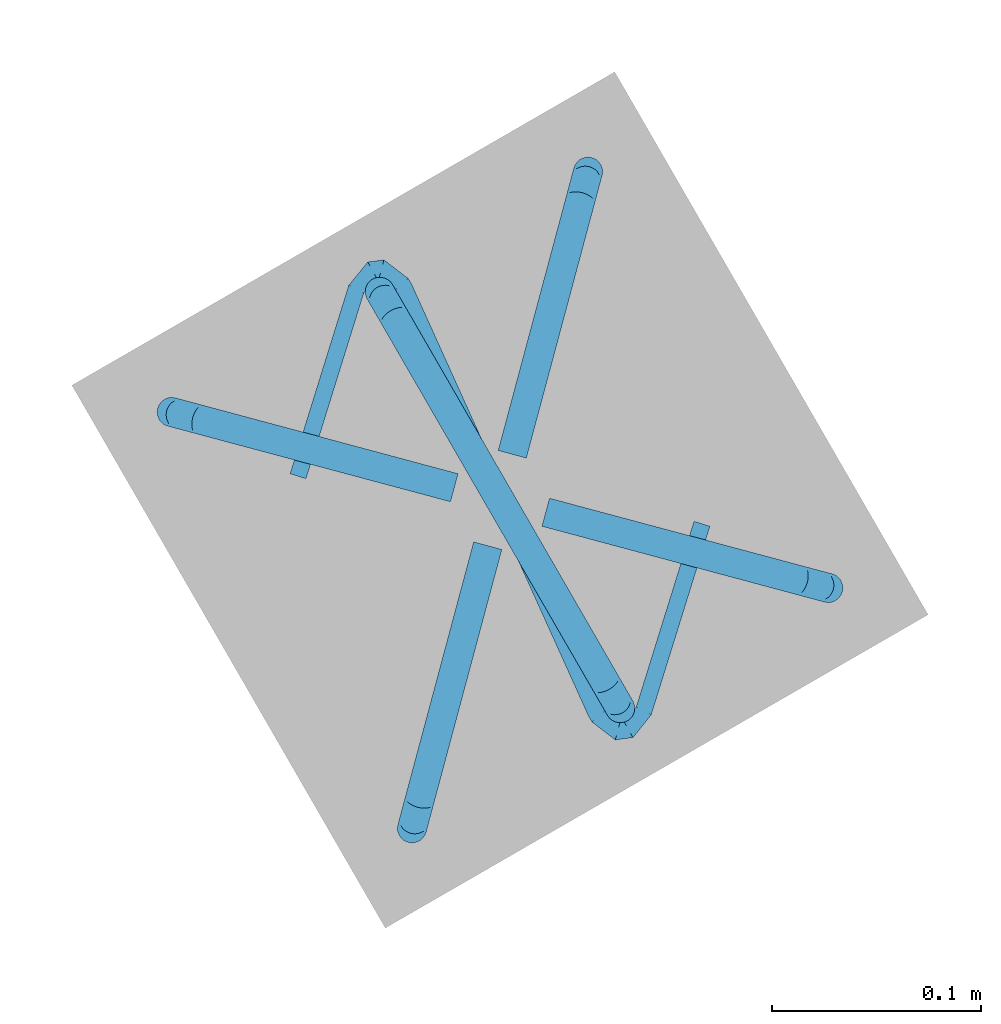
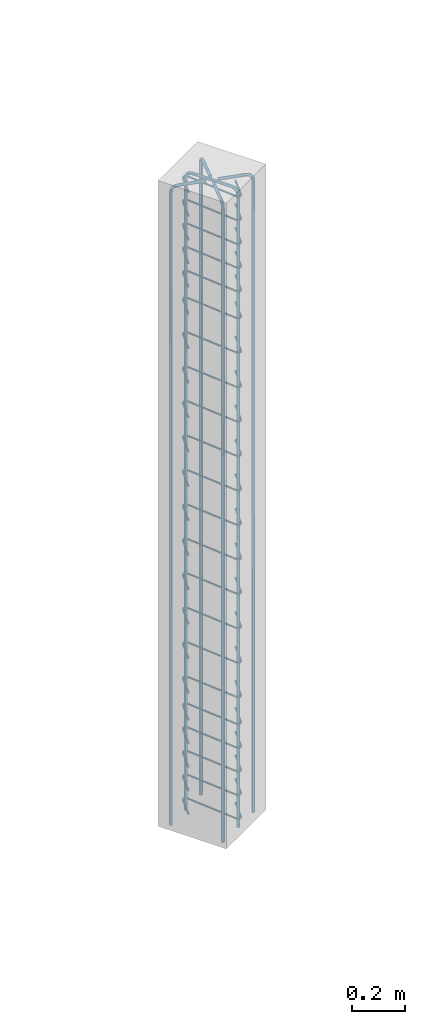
# One storey, part 3 of 11: 2 reinforcing bars.
"""IFC2X3 building model written with IfcOpenShell, lengths in metres."""

from ifc_helpers import new_model, entity, si_unit, direction, frame, origin, place, context, subcontext, project, spatial, shape, source, transform, mapped, element, save


model = new_model("IFC2X3")

# Units and contexts
model_context = context("Model", 3, precision=0.0, world=origin(), true_north=direction((0.0, 1.0)))
plan_context = context("Plan", 3, precision=0.0, world=origin(), true_north=direction((0.0, 1.0)))
body_context = subcontext(model_context, "Body", "Model", "MODEL_VIEW", scale=1.0)
ifc_project = project(units=[si_unit("LENGTHUNIT", "METRE"), si_unit("AREAUNIT", "SQUARE_METRE"), si_unit("VOLUMEUNIT", "CUBIC_METRE"), si_unit("PLANEANGLEUNIT", "RADIAN"), si_unit("THERMODYNAMICTEMPERATUREUNIT", "DEGREE_CELSIUS"), si_unit("FORCEUNIT", "NEWTON"), si_unit("MASSUNIT", "GRAM", prefix="KILO")], contexts=[model_context, plan_context])

# Site, building, storey
placement = place(None, origin())
site = spatial("IfcSite", under=ifc_project, at=placement, Name="Default Site", CompositionType="ELEMENT")
building = spatial("IfcBuilding", under=site, at=placement, Name="Default Building", CompositionType="ELEMENT")
storey_placement = place(placement, frame((0.0, 0.0, 3.0), z_axis=(1.0, 0.0, 0.0), x_axis=(0.0, 0.0, 1.0)))
storey = spatial("IfcBuildingStorey", under=building, at=storey_placement, Name="Piano 1", CompositionType="ELEMENT", Elevation=3.0)

# Reinforcing bars
shared_shape_1 = source(origin(), body_context, None, "AdvancedSweptSolid", [
    entity("IfcSweptDiskSolid", entity("IfcCompositeCurve", [entity("IfcCompositeCurveSegment", "CONTINUOUS", True, entity("IfcPolyline", [entity("IfcCartesianPoint", [0.0, 0.0, 0.0]), entity("IfcCartesianPoint", [-0.027863, -0.089508, 0.0]), entity("IfcCartesianPoint", [-0.035139, -0.098609, 0.0]), entity("IfcCartesianPoint", [-0.040373, -0.099298, 0.0]), entity("IfcCartesianPoint", [-0.049544, -0.092261, 0.0]), entity("IfcCartesianPoint", [-0.050972, -0.089787, 0.0]), entity("IfcCartesianPoint", [-0.142363, 0.112507, 0.0]), entity("IfcCartesianPoint", [-0.143606, 0.114659, 0.0]), entity("IfcCartesianPoint", [-0.153321, 0.122114, 0.0]), entity("IfcCartesianPoint", [-0.157874, 0.121515, 0.0]), entity("IfcCartesianPoint", [-0.165473, 0.112228, 0.0]), entity("IfcCartesianPoint", [-0.193336, 0.02272, 0.0])]))], False), 0.004, 0.0, 0.0),
])
shared_shape_2 = source(origin(), body_context, None, "AdvancedSweptSolid", [
    entity("IfcSweptDiskSolid", entity("IfcCompositeCurve", [entity("IfcCompositeCurveSegment", "CONTINUOUS", True, entity("IfcPolyline", [entity("IfcCartesianPoint", [0.0, 0.0, 0.0]), entity("IfcCartesianPoint", [-0.027863, -0.089508, 0.0]), entity("IfcCartesianPoint", [-0.035139, -0.098609, 0.0]), entity("IfcCartesianPoint", [-0.040373, -0.099298, 0.0]), entity("IfcCartesianPoint", [-0.049544, -0.092261, 0.0]), entity("IfcCartesianPoint", [-0.050972, -0.089787, 0.0]), entity("IfcCartesianPoint", [-0.142363, 0.112507, 0.0]), entity("IfcCartesianPoint", [-0.143606, 0.114659, 0.0]), entity("IfcCartesianPoint", [-0.153321, 0.122114, 0.0]), entity("IfcCartesianPoint", [-0.157874, 0.121515, 0.0]), entity("IfcCartesianPoint", [-0.165473, 0.112228, 0.0]), entity("IfcCartesianPoint", [-0.193336, 0.02272, 0.0])]))], False), 0.004, 0.0, 0.0),
])
shared_shape_3 = source(origin(), body_context, None, "AdvancedSweptSolid", [
    entity("IfcSweptDiskSolid", entity("IfcCompositeCurve", [entity("IfcCompositeCurveSegment", "CONTINUOUS", True, entity("IfcPolyline", [entity("IfcCartesianPoint", [0.0, 0.0, 0.0]), entity("IfcCartesianPoint", [-0.027863, -0.089508, 0.0]), entity("IfcCartesianPoint", [-0.035139, -0.098609, 0.0]), entity("IfcCartesianPoint", [-0.040373, -0.099298, 0.0]), entity("IfcCartesianPoint", [-0.049544, -0.092261, 0.0]), entity("IfcCartesianPoint", [-0.050972, -0.089787, 0.0]), entity("IfcCartesianPoint", [-0.142363, 0.112507, 0.0]), entity("IfcCartesianPoint", [-0.143606, 0.114659, 0.0]), entity("IfcCartesianPoint", [-0.153321, 0.122114, 0.0]), entity("IfcCartesianPoint", [-0.157874, 0.121515, 0.0]), entity("IfcCartesianPoint", [-0.165473, 0.112228, 0.0]), entity("IfcCartesianPoint", [-0.193336, 0.02272, 0.0])]))], False), 0.004, 0.0, 0.0),
])
shared_shape_4 = source(origin(), body_context, None, "AdvancedSweptSolid", [
    entity("IfcSweptDiskSolid", entity("IfcCompositeCurve", [entity("IfcCompositeCurveSegment", "CONTINUOUS", True, entity("IfcPolyline", [entity("IfcCartesianPoint", [0.0, 0.0, 0.0]), entity("IfcCartesianPoint", [-0.027863, -0.089508, 0.0]), entity("IfcCartesianPoint", [-0.035139, -0.098609, 0.0]), entity("IfcCartesianPoint", [-0.040373, -0.099298, 0.0]), entity("IfcCartesianPoint", [-0.049544, -0.092261, 0.0]), entity("IfcCartesianPoint", [-0.050972, -0.089787, 0.0]), entity("IfcCartesianPoint", [-0.142363, 0.112507, 0.0]), entity("IfcCartesianPoint", [-0.143606, 0.114659, 0.0]), entity("IfcCartesianPoint", [-0.153321, 0.122114, 0.0]), entity("IfcCartesianPoint", [-0.157874, 0.121515, 0.0]), entity("IfcCartesianPoint", [-0.165473, 0.112228, 0.0]), entity("IfcCartesianPoint", [-0.193336, 0.02272, 0.0])]))], False), 0.004, 0.0, 0.0),
])
shared_shape_5 = source(origin(), body_context, None, "AdvancedSweptSolid", [
    entity("IfcSweptDiskSolid", entity("IfcCompositeCurve", [entity("IfcCompositeCurveSegment", "CONTINUOUS", True, entity("IfcPolyline", [entity("IfcCartesianPoint", [0.0, 0.0, 0.0]), entity("IfcCartesianPoint", [-0.027863, -0.089508, 0.0]), entity("IfcCartesianPoint", [-0.035139, -0.098609, 0.0]), entity("IfcCartesianPoint", [-0.040373, -0.099298, 0.0]), entity("IfcCartesianPoint", [-0.049544, -0.092261, 0.0]), entity("IfcCartesianPoint", [-0.050972, -0.089787, 0.0]), entity("IfcCartesianPoint", [-0.142363, 0.112507, 0.0]), entity("IfcCartesianPoint", [-0.143606, 0.114659, 0.0]), entity("IfcCartesianPoint", [-0.153321, 0.122114, 0.0]), entity("IfcCartesianPoint", [-0.157874, 0.121515, 0.0]), entity("IfcCartesianPoint", [-0.165473, 0.112228, 0.0]), entity("IfcCartesianPoint", [-0.193336, 0.02272, 0.0])]))], False), 0.004, 0.0, 0.0),
])
shared_shape_6 = source(origin(), body_context, None, "AdvancedSweptSolid", [
    entity("IfcSweptDiskSolid", entity("IfcCompositeCurve", [entity("IfcCompositeCurveSegment", "CONTINUOUS", True, entity("IfcPolyline", [entity("IfcCartesianPoint", [0.0, 0.0, 0.0]), entity("IfcCartesianPoint", [-0.027863, -0.089508, 0.0]), entity("IfcCartesianPoint", [-0.035139, -0.098609, 0.0]), entity("IfcCartesianPoint", [-0.040373, -0.099298, 0.0]), entity("IfcCartesianPoint", [-0.049544, -0.092261, 0.0]), entity("IfcCartesianPoint", [-0.050972, -0.089787, 0.0]), entity("IfcCartesianPoint", [-0.142363, 0.112507, 0.0]), entity("IfcCartesianPoint", [-0.143606, 0.114659, 0.0]), entity("IfcCartesianPoint", [-0.153321, 0.122114, 0.0]), entity("IfcCartesianPoint", [-0.157874, 0.121515, 0.0]), entity("IfcCartesianPoint", [-0.165473, 0.112228, 0.0]), entity("IfcCartesianPoint", [-0.193336, 0.02272, 0.0])]))], False), 0.004, 0.0, 0.0),
])
shared_shape_7 = source(origin(), body_context, None, "AdvancedSweptSolid", [
    entity("IfcSweptDiskSolid", entity("IfcCompositeCurve", [entity("IfcCompositeCurveSegment", "CONTINUOUS", True, entity("IfcPolyline", [entity("IfcCartesianPoint", [0.0, 0.0, 0.0]), entity("IfcCartesianPoint", [-0.027863, -0.089508, 0.0]), entity("IfcCartesianPoint", [-0.035139, -0.098609, 0.0]), entity("IfcCartesianPoint", [-0.040373, -0.099298, 0.0]), entity("IfcCartesianPoint", [-0.049544, -0.092261, 0.0]), entity("IfcCartesianPoint", [-0.050972, -0.089787, 0.0]), entity("IfcCartesianPoint", [-0.142363, 0.112507, 0.0]), entity("IfcCartesianPoint", [-0.143606, 0.114659, 0.0]), entity("IfcCartesianPoint", [-0.153321, 0.122114, 0.0]), entity("IfcCartesianPoint", [-0.157874, 0.121515, 0.0]), entity("IfcCartesianPoint", [-0.165473, 0.112228, 0.0]), entity("IfcCartesianPoint", [-0.193336, 0.02272, 0.0])]))], False), 0.004, 0.0, 0.0),
])
shared_shape_8 = source(origin(), body_context, None, "AdvancedSweptSolid", [
    entity("IfcSweptDiskSolid", entity("IfcCompositeCurve", [entity("IfcCompositeCurveSegment", "CONTINUOUS", True, entity("IfcPolyline", [entity("IfcCartesianPoint", [0.0, 0.0, 0.0]), entity("IfcCartesianPoint", [-0.027863, -0.089508, 0.0]), entity("IfcCartesianPoint", [-0.035139, -0.098609, 0.0]), entity("IfcCartesianPoint", [-0.040373, -0.099298, 0.0]), entity("IfcCartesianPoint", [-0.049544, -0.092261, 0.0]), entity("IfcCartesianPoint", [-0.050972, -0.089787, 0.0]), entity("IfcCartesianPoint", [-0.142363, 0.112507, 0.0]), entity("IfcCartesianPoint", [-0.143606, 0.114659, 0.0]), entity("IfcCartesianPoint", [-0.153321, 0.122114, 0.0]), entity("IfcCartesianPoint", [-0.157874, 0.121515, 0.0]), entity("IfcCartesianPoint", [-0.165473, 0.112228, 0.0]), entity("IfcCartesianPoint", [-0.193336, 0.02272, 0.0])]))], False), 0.004, 0.0, 0.0),
])
shared_shape_9 = source(origin(), body_context, None, "AdvancedSweptSolid", [
    entity("IfcSweptDiskSolid", entity("IfcCompositeCurve", [entity("IfcCompositeCurveSegment", "CONTINUOUS", True, entity("IfcPolyline", [entity("IfcCartesianPoint", [0.0, 0.0, 0.0]), entity("IfcCartesianPoint", [-0.027863, -0.089508, 0.0]), entity("IfcCartesianPoint", [-0.035139, -0.098609, 0.0]), entity("IfcCartesianPoint", [-0.040373, -0.099298, 0.0]), entity("IfcCartesianPoint", [-0.049544, -0.092261, 0.0]), entity("IfcCartesianPoint", [-0.050972, -0.089787, 0.0]), entity("IfcCartesianPoint", [-0.142363, 0.112507, 0.0]), entity("IfcCartesianPoint", [-0.143606, 0.114659, 0.0]), entity("IfcCartesianPoint", [-0.153321, 0.122114, 0.0]), entity("IfcCartesianPoint", [-0.157874, 0.121515, 0.0]), entity("IfcCartesianPoint", [-0.165473, 0.112228, 0.0]), entity("IfcCartesianPoint", [-0.193336, 0.02272, 0.0])]))], False), 0.004, 0.0, 0.0),
])
shared_shape_10 = source(origin(), body_context, None, "AdvancedSweptSolid", [
    entity("IfcSweptDiskSolid", entity("IfcCompositeCurve", [entity("IfcCompositeCurveSegment", "CONTINUOUS", True, entity("IfcPolyline", [entity("IfcCartesianPoint", [0.0, 0.0, 0.0]), entity("IfcCartesianPoint", [-0.027863, -0.089508, 0.0]), entity("IfcCartesianPoint", [-0.035139, -0.098609, 0.0]), entity("IfcCartesianPoint", [-0.040373, -0.099298, 0.0]), entity("IfcCartesianPoint", [-0.049544, -0.092261, 0.0]), entity("IfcCartesianPoint", [-0.050972, -0.089787, 0.0]), entity("IfcCartesianPoint", [-0.142363, 0.112507, 0.0]), entity("IfcCartesianPoint", [-0.143606, 0.114659, 0.0]), entity("IfcCartesianPoint", [-0.153321, 0.122114, 0.0]), entity("IfcCartesianPoint", [-0.157874, 0.121515, 0.0]), entity("IfcCartesianPoint", [-0.165473, 0.112228, 0.0]), entity("IfcCartesianPoint", [-0.193336, 0.02272, 0.0])]))], False), 0.004, 0.0, 0.0),
])
shared_shape_11 = source(origin(), body_context, None, "AdvancedSweptSolid", [
    entity("IfcSweptDiskSolid", entity("IfcCompositeCurve", [entity("IfcCompositeCurveSegment", "CONTINUOUS", True, entity("IfcPolyline", [entity("IfcCartesianPoint", [0.0, 0.0, 0.0]), entity("IfcCartesianPoint", [-0.027863, -0.089508, 0.0]), entity("IfcCartesianPoint", [-0.035139, -0.098609, 0.0]), entity("IfcCartesianPoint", [-0.040373, -0.099298, 0.0]), entity("IfcCartesianPoint", [-0.049544, -0.092261, 0.0]), entity("IfcCartesianPoint", [-0.050972, -0.089787, 0.0]), entity("IfcCartesianPoint", [-0.142363, 0.112507, 0.0]), entity("IfcCartesianPoint", [-0.143606, 0.114659, 0.0]), entity("IfcCartesianPoint", [-0.153321, 0.122114, 0.0]), entity("IfcCartesianPoint", [-0.157874, 0.121515, 0.0]), entity("IfcCartesianPoint", [-0.165473, 0.112228, 0.0]), entity("IfcCartesianPoint", [-0.193336, 0.02272, 0.0])]))], False), 0.004, 0.0, 0.0),
])
shared_shape_12 = source(origin(), body_context, None, "AdvancedSweptSolid", [
    entity("IfcSweptDiskSolid", entity("IfcCompositeCurve", [entity("IfcCompositeCurveSegment", "CONTINUOUS", True, entity("IfcPolyline", [entity("IfcCartesianPoint", [0.0, 0.0, 0.0]), entity("IfcCartesianPoint", [-0.027863, -0.089508, 0.0]), entity("IfcCartesianPoint", [-0.035139, -0.098609, 0.0]), entity("IfcCartesianPoint", [-0.040373, -0.099298, 0.0]), entity("IfcCartesianPoint", [-0.049544, -0.092261, 0.0]), entity("IfcCartesianPoint", [-0.050972, -0.089787, 0.0]), entity("IfcCartesianPoint", [-0.142363, 0.112507, 0.0]), entity("IfcCartesianPoint", [-0.143606, 0.114659, 0.0]), entity("IfcCartesianPoint", [-0.153321, 0.122114, 0.0]), entity("IfcCartesianPoint", [-0.157874, 0.121515, 0.0]), entity("IfcCartesianPoint", [-0.165473, 0.112228, 0.0]), entity("IfcCartesianPoint", [-0.193336, 0.02272, 0.0])]))], False), 0.004, 0.0, 0.0),
])
shared_shape_13 = source(origin(), body_context, None, "AdvancedSweptSolid", [
    entity("IfcSweptDiskSolid", entity("IfcCompositeCurve", [entity("IfcCompositeCurveSegment", "CONTINUOUS", True, entity("IfcPolyline", [entity("IfcCartesianPoint", [0.0, 0.0, 0.0]), entity("IfcCartesianPoint", [-0.027863, -0.089508, 0.0]), entity("IfcCartesianPoint", [-0.035139, -0.098609, 0.0]), entity("IfcCartesianPoint", [-0.040373, -0.099298, 0.0]), entity("IfcCartesianPoint", [-0.049544, -0.092261, 0.0]), entity("IfcCartesianPoint", [-0.050972, -0.089787, 0.0]), entity("IfcCartesianPoint", [-0.142363, 0.112507, 0.0]), entity("IfcCartesianPoint", [-0.143606, 0.114659, 0.0]), entity("IfcCartesianPoint", [-0.153321, 0.122114, 0.0]), entity("IfcCartesianPoint", [-0.157874, 0.121515, 0.0]), entity("IfcCartesianPoint", [-0.165473, 0.112228, 0.0]), entity("IfcCartesianPoint", [-0.193336, 0.02272, 0.0])]))], False), 0.004, 0.0, 0.0),
])
shared_shape_14 = source(origin(), body_context, None, "AdvancedSweptSolid", [
    entity("IfcSweptDiskSolid", entity("IfcCompositeCurve", [entity("IfcCompositeCurveSegment", "CONTINUOUS", True, entity("IfcPolyline", [entity("IfcCartesianPoint", [0.0, 0.0, 0.0]), entity("IfcCartesianPoint", [-0.027863, -0.089508, 0.0]), entity("IfcCartesianPoint", [-0.035139, -0.098609, 0.0]), entity("IfcCartesianPoint", [-0.040373, -0.099298, 0.0]), entity("IfcCartesianPoint", [-0.049544, -0.092261, 0.0]), entity("IfcCartesianPoint", [-0.050972, -0.089787, 0.0]), entity("IfcCartesianPoint", [-0.142363, 0.112507, 0.0]), entity("IfcCartesianPoint", [-0.143606, 0.114659, 0.0]), entity("IfcCartesianPoint", [-0.153321, 0.122114, 0.0]), entity("IfcCartesianPoint", [-0.157874, 0.121515, 0.0]), entity("IfcCartesianPoint", [-0.165473, 0.112228, 0.0]), entity("IfcCartesianPoint", [-0.193336, 0.02272, 0.0])]))], False), 0.004, 0.0, 0.0),
])
shared_shape_15 = source(origin(), body_context, None, "AdvancedSweptSolid", [
    entity("IfcSweptDiskSolid", entity("IfcCompositeCurve", [entity("IfcCompositeCurveSegment", "CONTINUOUS", True, entity("IfcPolyline", [entity("IfcCartesianPoint", [0.0, 0.0, 0.0]), entity("IfcCartesianPoint", [-0.027863, -0.089508, 0.0]), entity("IfcCartesianPoint", [-0.035139, -0.098609, 0.0]), entity("IfcCartesianPoint", [-0.040373, -0.099298, 0.0]), entity("IfcCartesianPoint", [-0.049544, -0.092261, 0.0]), entity("IfcCartesianPoint", [-0.050972, -0.089787, 0.0]), entity("IfcCartesianPoint", [-0.142363, 0.112507, 0.0]), entity("IfcCartesianPoint", [-0.143606, 0.114659, 0.0]), entity("IfcCartesianPoint", [-0.153321, 0.122114, 0.0]), entity("IfcCartesianPoint", [-0.157874, 0.121515, 0.0]), entity("IfcCartesianPoint", [-0.165473, 0.112228, 0.0]), entity("IfcCartesianPoint", [-0.193336, 0.02272, 0.0])]))], False), 0.004, 0.0, 0.0),
])
shared_shape_16 = source(origin(), body_context, None, "AdvancedSweptSolid", [
    entity("IfcSweptDiskSolid", entity("IfcCompositeCurve", [entity("IfcCompositeCurveSegment", "CONTINUOUS", True, entity("IfcPolyline", [entity("IfcCartesianPoint", [0.0, 0.0, 0.0]), entity("IfcCartesianPoint", [-0.027863, -0.089508, 0.0]), entity("IfcCartesianPoint", [-0.035139, -0.098609, 0.0]), entity("IfcCartesianPoint", [-0.040373, -0.099298, 0.0]), entity("IfcCartesianPoint", [-0.049544, -0.092261, 0.0]), entity("IfcCartesianPoint", [-0.050972, -0.089787, 0.0]), entity("IfcCartesianPoint", [-0.142363, 0.112507, 0.0]), entity("IfcCartesianPoint", [-0.143606, 0.114659, 0.0]), entity("IfcCartesianPoint", [-0.153321, 0.122114, 0.0]), entity("IfcCartesianPoint", [-0.157874, 0.121515, 0.0]), entity("IfcCartesianPoint", [-0.165473, 0.112228, 0.0]), entity("IfcCartesianPoint", [-0.193336, 0.02272, 0.0])]))], False), 0.004, 0.0, 0.0),
])
shared_shape_17 = source(origin(), body_context, None, "AdvancedSweptSolid", [
    entity("IfcSweptDiskSolid", entity("IfcCompositeCurve", [entity("IfcCompositeCurveSegment", "CONTINUOUS", True, entity("IfcPolyline", [entity("IfcCartesianPoint", [0.0, 0.0, 0.0]), entity("IfcCartesianPoint", [-0.027863, -0.089508, 0.0]), entity("IfcCartesianPoint", [-0.035139, -0.098609, 0.0]), entity("IfcCartesianPoint", [-0.040373, -0.099298, 0.0]), entity("IfcCartesianPoint", [-0.049544, -0.092261, 0.0]), entity("IfcCartesianPoint", [-0.050972, -0.089787, 0.0]), entity("IfcCartesianPoint", [-0.142363, 0.112507, 0.0]), entity("IfcCartesianPoint", [-0.143606, 0.114659, 0.0]), entity("IfcCartesianPoint", [-0.153321, 0.122114, 0.0]), entity("IfcCartesianPoint", [-0.157874, 0.121515, 0.0]), entity("IfcCartesianPoint", [-0.165473, 0.112228, 0.0]), entity("IfcCartesianPoint", [-0.193336, 0.02272, 0.0])]))], False), 0.004, 0.0, 0.0),
])
shared_shape_18 = source(origin(), body_context, None, "AdvancedSweptSolid", [
    entity("IfcSweptDiskSolid", entity("IfcCompositeCurve", [entity("IfcCompositeCurveSegment", "CONTINUOUS", True, entity("IfcPolyline", [entity("IfcCartesianPoint", [0.0, 0.0, 0.0]), entity("IfcCartesianPoint", [-0.027863, -0.089508, 0.0]), entity("IfcCartesianPoint", [-0.035139, -0.098609, 0.0]), entity("IfcCartesianPoint", [-0.040373, -0.099298, 0.0]), entity("IfcCartesianPoint", [-0.049544, -0.092261, 0.0]), entity("IfcCartesianPoint", [-0.050972, -0.089787, 0.0]), entity("IfcCartesianPoint", [-0.142363, 0.112507, 0.0]), entity("IfcCartesianPoint", [-0.143606, 0.114659, 0.0]), entity("IfcCartesianPoint", [-0.153321, 0.122114, 0.0]), entity("IfcCartesianPoint", [-0.157874, 0.121515, 0.0]), entity("IfcCartesianPoint", [-0.165473, 0.112228, 0.0]), entity("IfcCartesianPoint", [-0.193336, 0.02272, 0.0])]))], False), 0.004, 0.0, 0.0),
])
shared_shape_19 = source(origin(), body_context, None, "AdvancedSweptSolid", [
    entity("IfcSweptDiskSolid", entity("IfcCompositeCurve", [entity("IfcCompositeCurveSegment", "CONTINUOUS", True, entity("IfcPolyline", [entity("IfcCartesianPoint", [0.0, 0.0, 0.0]), entity("IfcCartesianPoint", [-0.027863, -0.089508, 0.0]), entity("IfcCartesianPoint", [-0.035139, -0.098609, 0.0]), entity("IfcCartesianPoint", [-0.040373, -0.099298, 0.0]), entity("IfcCartesianPoint", [-0.049544, -0.092261, 0.0]), entity("IfcCartesianPoint", [-0.050972, -0.089787, 0.0]), entity("IfcCartesianPoint", [-0.142363, 0.112507, 0.0]), entity("IfcCartesianPoint", [-0.143606, 0.114659, 0.0]), entity("IfcCartesianPoint", [-0.153321, 0.122114, 0.0]), entity("IfcCartesianPoint", [-0.157874, 0.121515, 0.0]), entity("IfcCartesianPoint", [-0.165473, 0.112228, 0.0]), entity("IfcCartesianPoint", [-0.193336, 0.02272, 0.0])]))], False), 0.004, 0.0, 0.0),
])
shared_shape_20 = source(origin(), body_context, None, "AdvancedSweptSolid", [
    entity("IfcSweptDiskSolid", entity("IfcCompositeCurve", [entity("IfcCompositeCurveSegment", "CONTINUOUS", True, entity("IfcPolyline", [entity("IfcCartesianPoint", [0.0, 0.0, 0.0]), entity("IfcCartesianPoint", [-0.027863, -0.089508, 0.0]), entity("IfcCartesianPoint", [-0.035139, -0.098609, 0.0]), entity("IfcCartesianPoint", [-0.040373, -0.099298, 0.0]), entity("IfcCartesianPoint", [-0.049544, -0.092261, 0.0]), entity("IfcCartesianPoint", [-0.050972, -0.089787, 0.0]), entity("IfcCartesianPoint", [-0.142363, 0.112507, 0.0]), entity("IfcCartesianPoint", [-0.143606, 0.114659, 0.0]), entity("IfcCartesianPoint", [-0.153321, 0.122114, 0.0]), entity("IfcCartesianPoint", [-0.157874, 0.121515, 0.0]), entity("IfcCartesianPoint", [-0.165473, 0.112228, 0.0]), entity("IfcCartesianPoint", [-0.193336, 0.02272, 0.0])]))], False), 0.004, 0.0, 0.0),
])
shared_shape_21 = source(origin(), body_context, None, "AdvancedSweptSolid", [
    entity("IfcSweptDiskSolid", entity("IfcCompositeCurve", [entity("IfcCompositeCurveSegment", "CONTINUOUS", True, entity("IfcPolyline", [entity("IfcCartesianPoint", [0.0, 0.0, 0.0]), entity("IfcCartesianPoint", [-0.027863, -0.089508, 0.0]), entity("IfcCartesianPoint", [-0.035139, -0.098609, 0.0]), entity("IfcCartesianPoint", [-0.040373, -0.099298, 0.0]), entity("IfcCartesianPoint", [-0.049544, -0.092261, 0.0]), entity("IfcCartesianPoint", [-0.050972, -0.089787, 0.0]), entity("IfcCartesianPoint", [-0.142363, 0.112507, 0.0]), entity("IfcCartesianPoint", [-0.143606, 0.114659, 0.0]), entity("IfcCartesianPoint", [-0.153321, 0.122114, 0.0]), entity("IfcCartesianPoint", [-0.157874, 0.121515, 0.0]), entity("IfcCartesianPoint", [-0.165473, 0.112228, 0.0]), entity("IfcCartesianPoint", [-0.193336, 0.02272, 0.0])]))], False), 0.004, 0.0, 0.0),
])
shared_shape_22 = source(origin(), body_context, None, "AdvancedSweptSolid", [
    entity("IfcSweptDiskSolid", entity("IfcCompositeCurve", [entity("IfcCompositeCurveSegment", "CONTINUOUS", True, entity("IfcPolyline", [entity("IfcCartesianPoint", [0.0, 0.0, 0.0]), entity("IfcCartesianPoint", [-0.027863, -0.089508, 0.0]), entity("IfcCartesianPoint", [-0.035139, -0.098609, 0.0]), entity("IfcCartesianPoint", [-0.040373, -0.099298, 0.0]), entity("IfcCartesianPoint", [-0.049544, -0.092261, 0.0]), entity("IfcCartesianPoint", [-0.050972, -0.089787, 0.0]), entity("IfcCartesianPoint", [-0.142363, 0.112507, 0.0]), entity("IfcCartesianPoint", [-0.143606, 0.114659, 0.0]), entity("IfcCartesianPoint", [-0.153321, 0.122114, 0.0]), entity("IfcCartesianPoint", [-0.157874, 0.121515, 0.0]), entity("IfcCartesianPoint", [-0.165473, 0.112228, 0.0]), entity("IfcCartesianPoint", [-0.193336, 0.02272, 0.0])]))], False), 0.004, 0.0, 0.0),
])
element("IfcReinforcingBar", 1, at=placement, inside=storey, Name="Arm Spillo; Pilastro:2 [Piano:1]", BarLength=10.387058, BarRole="LIGATURE", BarSurface="TEXTURED", NominalDiameter=0.008, shapes=[
    shape(body_context, None, "MappedRepresentation", [mapped(shared_shape_1, transform((4.096668, -0.01136, 2.935))), mapped(shared_shape_2, transform((4.096668, -0.01136, 2.825))), mapped(shared_shape_3, transform((4.096668, -0.01136, 2.715))), mapped(shared_shape_4, transform((4.096668, -0.01136, 2.605))), mapped(shared_shape_5, transform((4.096668, -0.01136, 2.495))), mapped(shared_shape_6, transform((4.096668, -0.01136, 2.37))), mapped(shared_shape_7, transform((4.096668, -0.01136, 2.21))), mapped(shared_shape_8, transform((4.096668, -0.01136, 2.05))), mapped(shared_shape_9, transform((4.096668, -0.01136, 1.89))), mapped(shared_shape_10, transform((4.096668, -0.01136, 1.73))), mapped(shared_shape_11, transform((4.096668, -0.01136, 1.57))), mapped(shared_shape_12, transform((4.096668, -0.01136, 1.41))), mapped(shared_shape_13, transform((4.096668, -0.01136, 1.25))), mapped(shared_shape_14, transform((4.096668, -0.01136, 1.09))), mapped(shared_shape_15, transform((4.096668, -0.01136, 0.93))), mapped(shared_shape_16, transform((4.096668, -0.01136, 0.77))), mapped(shared_shape_17, transform((4.096668, -0.01136, 0.61))), mapped(shared_shape_18, transform((4.096668, -0.01136, 0.045))), mapped(shared_shape_19, transform((4.096668, -0.01136, 0.155))), mapped(shared_shape_20, transform((4.096668, -0.01136, 0.265))), mapped(shared_shape_21, transform((4.096668, -0.01136, 0.375))), mapped(shared_shape_22, transform((4.096668, -0.01136, 0.485)))]),
])
shared_shape_23 = source(origin(), body_context, None, "AdvancedSweptSolid", [
    entity("IfcSweptDiskSolid", entity("IfcCompositeCurve", [entity("IfcCompositeCurveSegment", "CONTINUOUS", True, entity("IfcPolyline", [entity("IfcCartesianPoint", [0.0, 0.0, 0.0]), entity("IfcCartesianPoint", [0.0, 0.0, 2.937]), entity("IfcCartesianPoint", [0.000971, 0.003623, 2.951]), entity("IfcCartesianPoint", [0.003623, 0.013523, 2.961249]), entity("IfcCartesianPoint", [0.007247, 0.027046, 2.965]), entity("IfcCartesianPoint", [0.036235, 0.13523, 2.965])]))], False), 0.007, 0.0, 0.0),
])
shared_shape_24 = source(origin(), body_context, None, "MappedRepresentation", [mapped(shared_shape_23, transform((3.957907, -0.157093, 0.0)))])
shared_shape_25 = source(origin(), body_context, None, "AdvancedSweptSolid", [
    entity("IfcSweptDiskSolid", entity("IfcCompositeCurve", [entity("IfcCompositeCurveSegment", "CONTINUOUS", True, entity("IfcPolyline", [entity("IfcCartesianPoint", [0.0, 0.0, 0.0]), entity("IfcCartesianPoint", [0.0, 0.0, 2.937]), entity("IfcCartesianPoint", [-0.003623, 0.000971, 2.951]), entity("IfcCartesianPoint", [-0.013523, 0.003623, 2.961249]), entity("IfcCartesianPoint", [-0.027046, 0.007247, 2.965]), entity("IfcCartesianPoint", [-0.13523, 0.036235, 2.965])]))], False), 0.007, 0.0, 0.0),
])
shared_shape_26 = source(origin(), body_context, None, "MappedRepresentation", [mapped(shared_shape_25, transform((4.157093, -0.042093, 0.0)))])
shared_shape_27 = source(origin(), body_context, None, "AdvancedSweptSolid", [
    entity("IfcSweptDiskSolid", entity("IfcCompositeCurve", [entity("IfcCompositeCurveSegment", "CONTINUOUS", True, entity("IfcPolyline", [entity("IfcCartesianPoint", [0.0, 0.0, 0.0]), entity("IfcCartesianPoint", [0.0, 0.0, 2.937]), entity("IfcCartesianPoint", [-0.000971, -0.003623, 2.951]), entity("IfcCartesianPoint", [-0.003623, -0.013523, 2.961249]), entity("IfcCartesianPoint", [-0.007247, -0.027046, 2.965]), entity("IfcCartesianPoint", [-0.036235, -0.13523, 2.965])]))], False), 0.007, 0.0, 0.0),
])
shared_shape_28 = source(origin(), body_context, None, "MappedRepresentation", [mapped(shared_shape_27, transform((4.042093, 0.157093, 0.0)))])
shared_shape_29 = source(origin(), body_context, None, "AdvancedSweptSolid", [
    entity("IfcSweptDiskSolid", entity("IfcCompositeCurve", [entity("IfcCompositeCurveSegment", "CONTINUOUS", True, entity("IfcPolyline", [entity("IfcCartesianPoint", [0.0, 0.0, 0.0]), entity("IfcCartesianPoint", [0.0, 0.0, 2.937]), entity("IfcCartesianPoint", [0.003623, -0.000971, 2.951]), entity("IfcCartesianPoint", [0.013523, -0.003623, 2.961249]), entity("IfcCartesianPoint", [0.027046, -0.007247, 2.965]), entity("IfcCartesianPoint", [0.13523, -0.036235, 2.965])]))], False), 0.007, 0.0, 0.0),
])
shared_shape_30 = source(origin(), body_context, None, "MappedRepresentation", [mapped(shared_shape_29, transform((3.842907, 0.042093, 0.0)))])
shared_shape_31 = source(origin(), body_context, None, "AdvancedSweptSolid", [
    entity("IfcSweptDiskSolid", entity("IfcCompositeCurve", [entity("IfcCompositeCurveSegment", "CONTINUOUS", True, entity("IfcPolyline", [entity("IfcCartesianPoint", [0.0, 0.0, 0.0]), entity("IfcCartesianPoint", [0.0, 0.0, 2.937]), entity("IfcCartesianPoint", [-0.001876, 0.003249, 2.951]), entity("IfcCartesianPoint", [-0.007, 0.012124, 2.961249]), entity("IfcCartesianPoint", [-0.014, 0.024249, 2.965]), entity("IfcCartesianPoint", [-0.07, 0.121244, 2.965])]))], False), 0.007, 0.0, 0.0),
])
shared_shape_32 = source(origin(), body_context, None, "MappedRepresentation", [mapped(shared_shape_31, transform((4.0575, -0.099593, 0.0)))])
shared_shape_33 = source(origin(), body_context, None, "AdvancedSweptSolid", [
    entity("IfcSweptDiskSolid", entity("IfcCompositeCurve", [entity("IfcCompositeCurveSegment", "CONTINUOUS", True, entity("IfcPolyline", [entity("IfcCartesianPoint", [0.0, 0.0, 0.0]), entity("IfcCartesianPoint", [0.0, 0.0, 2.937]), entity("IfcCartesianPoint", [0.001876, -0.003249, 2.951]), entity("IfcCartesianPoint", [0.007, -0.012124, 2.961249]), entity("IfcCartesianPoint", [0.014, -0.024249, 2.965]), entity("IfcCartesianPoint", [0.07, -0.121244, 2.965])]))], False), 0.007, 0.0, 0.0),
])
shared_shape_34 = source(origin(), body_context, None, "MappedRepresentation", [mapped(shared_shape_33, transform((3.9425, 0.099593, 0.0)))])
element("IfcReinforcingBar", 2, at=placement, inside=storey, Name="Arm Principale; Pilastro:2 [Piano:1]", BarLength=18.55489, BarRole="MAIN", BarSurface="TEXTURED", NominalDiameter=0.014, shapes=[
    shape(body_context, None, "MappedRepresentation", [mapped(shared_shape_24, transform((0.0, 0.0, 0.0))), mapped(shared_shape_26, transform((0.0, 0.0, 0.0))), mapped(shared_shape_28, transform((0.0, 0.0, 0.0))), mapped(shared_shape_30, transform((0.0, 0.0, 0.0))), mapped(shared_shape_32, transform((0.0, 0.0, 0.0))), mapped(shared_shape_34, transform((0.0, 0.0, 0.0)))]),
])

save(model, "model.ifc")
